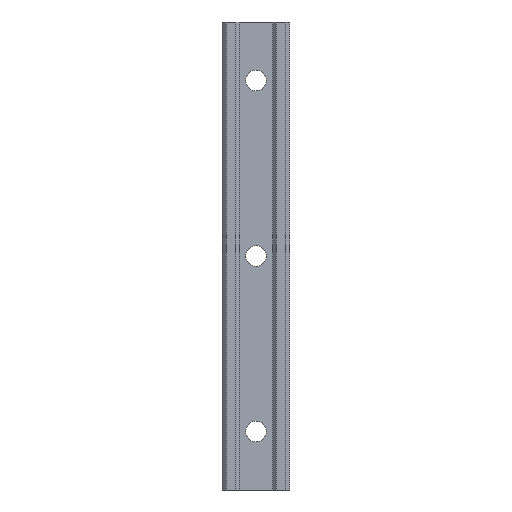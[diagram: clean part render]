
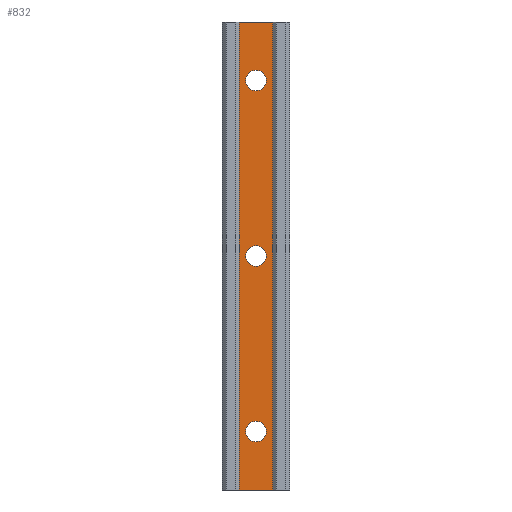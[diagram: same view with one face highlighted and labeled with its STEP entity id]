
A CAD part, front view. The second image highlights one B-rep face of the part: STEP entity #832.
In plain terms, the highlighted planar face has unit normal (0, -1, 0).
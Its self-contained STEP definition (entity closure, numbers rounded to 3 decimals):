
#7 = ORIENTED_EDGE ( 'NONE', *, *, #573, .T. ) ;
#26 = ORIENTED_EDGE ( 'NONE', *, *, #98, .T. ) ;
#27 = DIRECTION ( 'NONE',  ( 0., 1., 0. ) ) ;
#58 = CARTESIAN_POINT ( 'NONE',  ( 0., 1.25, -60. ) ) ;
#67 = VECTOR ( 'NONE', #952, 1000. ) ;
#98 = EDGE_CURVE ( 'NONE', #853, #1170, #1265, .T. ) ;
#123 = VERTEX_POINT ( 'NONE', #639 ) ;
#126 = EDGE_LOOP ( 'NONE', ( #608, #687, #1097, #1345 ) ) ;
#128 = CARTESIAN_POINT ( 'NONE',  ( 0., 1.25, 56.5 ) ) ;
#134 = DIRECTION ( 'NONE',  ( 0., 0., 1. ) ) ;
#142 = CARTESIAN_POINT ( 'NONE',  ( -5.75, 1.25, -80. ) ) ;
#167 = LINE ( 'NONE', #227, #67 ) ;
#169 = EDGE_LOOP ( 'NONE', ( #7, #367 ) ) ;
#170 = CARTESIAN_POINT ( 'NONE',  ( 0., 1.25, -63.5 ) ) ;
#173 = ORIENTED_EDGE ( 'NONE', *, *, #296, .T. ) ;
#186 = EDGE_CURVE ( 'NONE', #1255, #604, #167, .T. ) ;
#189 = CARTESIAN_POINT ( 'NONE',  ( 0., 1.25, 3.5 ) ) ;
#205 = CARTESIAN_POINT ( 'NONE',  ( -5.75, 1.25, 80. ) ) ;
#210 = EDGE_LOOP ( 'NONE', ( #173, #337 ) ) ;
#217 = DIRECTION ( 'NONE',  ( 0., 0., 1. ) ) ;
#227 = CARTESIAN_POINT ( 'NONE',  ( -5.75, 1.25, -80. ) ) ;
#283 = DIRECTION ( 'NONE',  ( 0., 0., 1. ) ) ;
#296 = EDGE_CURVE ( 'NONE', #766, #123, #589, .T. ) ;
#300 = CARTESIAN_POINT ( 'NONE',  ( 0., 1.25, -56.5 ) ) ;
#311 = FACE_BOUND ( 'NONE', #975, .T. ) ;
#337 = ORIENTED_EDGE ( 'NONE', *, *, #393, .T. ) ;
#348 = CARTESIAN_POINT ( 'NONE',  ( 0., 1.25, -60. ) ) ;
#355 = AXIS2_PLACEMENT_3D ( 'NONE', #58, #391, #1120 ) ;
#367 = ORIENTED_EDGE ( 'NONE', *, *, #373, .T. ) ;
#373 = EDGE_CURVE ( 'NONE', #1352, #466, #1058, .T. ) ;
#382 = EDGE_CURVE ( 'NONE', #604, #778, #1029, .T. ) ;
#391 = DIRECTION ( 'NONE',  ( 0., 1., 0. ) ) ;
#393 = EDGE_CURVE ( 'NONE', #123, #766, #1324, .T. ) ;
#394 = CARTESIAN_POINT ( 'NONE',  ( -5.75, 1.25, -80. ) ) ;
#452 = DIRECTION ( 'NONE',  ( 0., 0., 1. ) ) ;
#459 = DIRECTION ( 'NONE',  ( 0., 1., 0. ) ) ;
#462 = LINE ( 'NONE', #1171, #1313 ) ;
#466 = VERTEX_POINT ( 'NONE', #300 ) ;
#479 = DIRECTION ( 'NONE',  ( 0., 0., 1. ) ) ;
#489 = CARTESIAN_POINT ( 'NONE',  ( -5.75, 1.25, 80. ) ) ;
#537 = CARTESIAN_POINT ( 'NONE',  ( 0., 1.25, 60. ) ) ;
#538 = LINE ( 'NONE', #205, #1062 ) ;
#544 = EDGE_CURVE ( 'NONE', #1170, #853, #1064, .T. ) ;
#553 = DIRECTION ( 'NONE',  ( 0., 0., 1. ) ) ;
#563 = AXIS2_PLACEMENT_3D ( 'NONE', #1078, #27, #134 ) ;
#573 = EDGE_CURVE ( 'NONE', #466, #1352, #1104, .T. ) ;
#589 = CIRCLE ( 'NONE', #1154, 3.5 ) ;
#593 = CARTESIAN_POINT ( 'NONE',  ( 0., 1.25, 63.5 ) ) ;
#597 = DIRECTION ( 'NONE',  ( 0., 1., 0. ) ) ;
#604 = VERTEX_POINT ( 'NONE', #142 ) ;
#608 = ORIENTED_EDGE ( 'NONE', *, *, #866, .T. ) ;
#633 = VERTEX_POINT ( 'NONE', #755 ) ;
#639 = CARTESIAN_POINT ( 'NONE',  ( 0., 1.25, -3.5 ) ) ;
#687 = ORIENTED_EDGE ( 'NONE', *, *, #382, .F. ) ;
#750 = ORIENTED_EDGE ( 'NONE', *, *, #544, .T. ) ;
#755 = CARTESIAN_POINT ( 'NONE',  ( 5.75, 1.25, 80. ) ) ;
#766 = VERTEX_POINT ( 'NONE', #189 ) ;
#778 = VERTEX_POINT ( 'NONE', #489 ) ;
#808 = DIRECTION ( 'NONE',  ( 0., 1., 0. ) ) ;
#819 = DIRECTION ( 'NONE',  ( -1., 0., 0. ) ) ;
#832 = ADVANCED_FACE ( 'NONE', ( #992, #892, #311, #859 ), #1335, .F. ) ;
#853 = VERTEX_POINT ( 'NONE', #593 ) ;
#859 = FACE_OUTER_BOUND ( 'NONE', #126, .T. ) ;
#866 = EDGE_CURVE ( 'NONE', #633, #778, #538, .T. ) ;
#892 = FACE_BOUND ( 'NONE', #169, .T. ) ;
#929 = VECTOR ( 'NONE', #1117, 1000. ) ;
#933 = AXIS2_PLACEMENT_3D ( 'NONE', #537, #1295, #553 ) ;
#949 = AXIS2_PLACEMENT_3D ( 'NONE', #1001, #597, #479 ) ;
#952 = DIRECTION ( 'NONE',  ( -1., 0., 0. ) ) ;
#975 = EDGE_LOOP ( 'NONE', ( #26, #750 ) ) ;
#987 = CARTESIAN_POINT ( 'NONE',  ( 5.75, 1.25, -80. ) ) ;
#992 = FACE_BOUND ( 'NONE', #210, .T. ) ;
#1001 = CARTESIAN_POINT ( 'NONE',  ( 0., 1.25, 0. ) ) ;
#1010 = AXIS2_PLACEMENT_3D ( 'NONE', #348, #1079, #452 ) ;
#1029 = LINE ( 'NONE', #1339, #929 ) ;
#1035 = EDGE_CURVE ( 'NONE', #1255, #633, #462, .T. ) ;
#1053 = AXIS2_PLACEMENT_3D ( 'NONE', #394, #808, #283 ) ;
#1058 = CIRCLE ( 'NONE', #355, 3.5 ) ;
#1062 = VECTOR ( 'NONE', #819, 1000. ) ;
#1064 = CIRCLE ( 'NONE', #933, 3.5 ) ;
#1078 = CARTESIAN_POINT ( 'NONE',  ( 0., 1.25, 60. ) ) ;
#1079 = DIRECTION ( 'NONE',  ( 0., 1., 0. ) ) ;
#1097 = ORIENTED_EDGE ( 'NONE', *, *, #186, .F. ) ;
#1104 = CIRCLE ( 'NONE', #1010, 3.5 ) ;
#1111 = CARTESIAN_POINT ( 'NONE',  ( 0., 1.25, 0. ) ) ;
#1117 = DIRECTION ( 'NONE',  ( 0., 0., 1. ) ) ;
#1120 = DIRECTION ( 'NONE',  ( 0., 0., 1. ) ) ;
#1154 = AXIS2_PLACEMENT_3D ( 'NONE', #1111, #459, #1204 ) ;
#1170 = VERTEX_POINT ( 'NONE', #128 ) ;
#1171 = CARTESIAN_POINT ( 'NONE',  ( 5.75, 1.25, -80. ) ) ;
#1204 = DIRECTION ( 'NONE',  ( 0., 0., 1. ) ) ;
#1255 = VERTEX_POINT ( 'NONE', #987 ) ;
#1265 = CIRCLE ( 'NONE', #563, 3.5 ) ;
#1295 = DIRECTION ( 'NONE',  ( 0., 1., 0. ) ) ;
#1313 = VECTOR ( 'NONE', #217, 1000. ) ;
#1324 = CIRCLE ( 'NONE', #949, 3.5 ) ;
#1335 = PLANE ( 'NONE',  #1053 ) ;
#1339 = CARTESIAN_POINT ( 'NONE',  ( -5.75, 1.25, -80. ) ) ;
#1345 = ORIENTED_EDGE ( 'NONE', *, *, #1035, .T. ) ;
#1352 = VERTEX_POINT ( 'NONE', #170 ) ;
